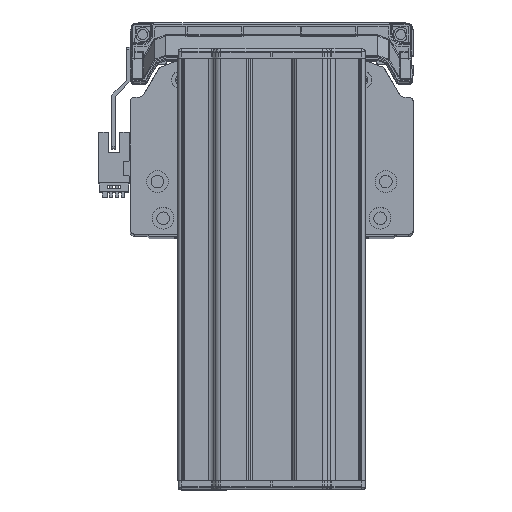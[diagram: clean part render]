
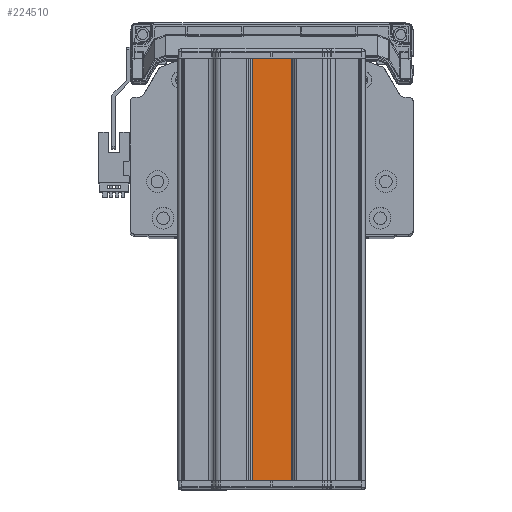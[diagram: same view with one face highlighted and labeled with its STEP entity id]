
A CAD part, top view. The second image highlights one B-rep face of the part: STEP entity #224510.
In plain terms, the highlighted planar face has unit normal (0, 0, 1) as drawn and (1, 0, 0) by its records, which use the part's own axes.
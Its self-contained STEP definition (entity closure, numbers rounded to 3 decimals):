
#223980=CARTESIAN_POINT('',(2.357,-8.586,92.5));
#223990=VERTEX_POINT('',#223980);
#224020=CARTESIAN_POINT('',(2.357,-8.586,-92.5));
#224030=DIRECTION('',(0.,0.,1.));
#224040=VECTOR('',#224030,1000.);
#224050=LINE('',#224020,#224040);
#224060=CARTESIAN_POINT('',(2.357,-8.586,-92.5));
#224070=VERTEX_POINT('',#224060);
#224080=EDGE_CURVE('',#224070,#223990,#224050,.T.);
#224210=CARTESIAN_POINT('',(2.357,8.586,-92.5));
#224220=DIRECTION('',(1.,0.,-0.));
#224230=DIRECTION('',(0.,0.,1.));
#224240=AXIS2_PLACEMENT_3D('',#224210,#224220,#224230);
#224250=PLANE('',#224240);
#224260=CARTESIAN_POINT('',(2.357,8.586,92.5));
#224270=DIRECTION('',(0.,1.,0.));
#224280=VECTOR('',#224270,1000.);
#224290=LINE('',#224260,#224280);
#224300=CARTESIAN_POINT('',(2.357,8.586,92.5));
#224310=VERTEX_POINT('',#224300);
#224320=EDGE_CURVE('',#223990,#224310,#224290,.T.);
#224330=ORIENTED_EDGE('',*,*,#224320,.F.);
#224340=CARTESIAN_POINT('',(2.357,8.586,-92.5));
#224350=DIRECTION('',(0.,0.,1.));
#224360=VECTOR('',#224350,1000.);
#224370=LINE('',#224340,#224360);
#224380=CARTESIAN_POINT('',(2.357,8.586,-92.5));
#224390=VERTEX_POINT('',#224380);
#224400=EDGE_CURVE('',#224390,#224310,#224370,.T.);
#224410=ORIENTED_EDGE('',*,*,#224400,.T.);
#224420=CARTESIAN_POINT('',(2.357,-8.586,-92.5));
#224430=DIRECTION('',(0.,1.,0.));
#224440=VECTOR('',#224430,1000.);
#224450=LINE('',#224420,#224440);
#224460=EDGE_CURVE('',#224070,#224390,#224450,.T.);
#224470=ORIENTED_EDGE('',*,*,#224460,.T.);
#224480=ORIENTED_EDGE('',*,*,#224080,.F.);
#224490=EDGE_LOOP('',(#224480,#224470,#224410,#224330));
#224500=FACE_OUTER_BOUND('',#224490,.T.);
#224510=ADVANCED_FACE('',(#224500),#224250,.T.);
